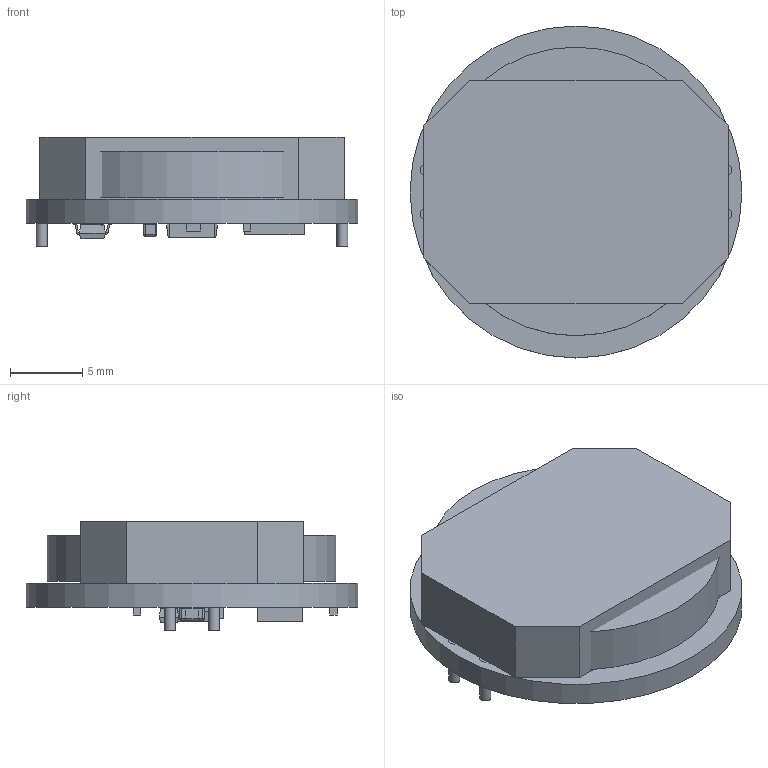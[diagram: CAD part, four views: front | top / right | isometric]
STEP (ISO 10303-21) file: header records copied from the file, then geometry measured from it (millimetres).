
FILE_DESCRIPTION(('Open CASCADE Model'),'2;1');
FILE_NAME('Open CASCADE Shape Model','2020-05-16T19:37:39',('Author'),( 'Open CASCADE'),'Open CASCADE STEP processor 6.5','Open CASCADE 6.5' ,'Unknown');
FILE_SCHEMA(('AUTOMOTIVE_DESIGN { 1 0 10303 214 1 1 1 1 }'));
Length unit declared in the file: millimetre
Products named in the file (34): PCB; Board; BT1; 1446006952; Cylinder; 1446007072; 1449174912; Extruded; D1; User_Library-SOD-323; 1438126896; ACCEL; 1449174656; C2; 1449174400; C3; CAPC-0603-T0.9-BN; SOLID; COMPOUND; C4; 1449175040; C5; uC; 1449174272; 1449174144; RGB_1; SK6812_Mini
Assembly tree (37 placements, depth 4):
  PCB
    Board
    BT1
      1446006952
        Cylinder
      1446007072  x4
        Cylinder
      1449174912
        Extruded
    D1
      User_Library-SOD-323
      1438126896
        Extruded
    ACCEL
      1449174656
        Extruded
    C2
      1449174400
        Extruded
    C3
      CAPC-0603-T0.9-BN
        SOLID
        COMPOUND
    C4
      1449175040
        Extruded
    C5
      1449175040
        Extruded
    uC
      1449174272
        Extruded
      1449174144
        Extruded
    RGB_1
      SK6812_Mini
Bounding box: 23 x 23 x 7.62 mm (x, y, z)
Volume: 3060.4 mm3; surface area: 2932.5 mm2
Topology: 16 solids, 23 shells, 607 faces, 1532 edges, 931 vertices
Faces by surface type: plane 247, cylinder 191, bspline 148, sphere 8, revolution 7, cone 6
Full cylindrical faces by diameter (mm): 0.762 x4, 20 x1, 23 x1
Entity records: 61093 total; most frequent: CARTESIAN_POINT 33800, DIRECTION 4015, ORIENTED_EDGE 2836, PCURVE 2836, DEFINITIONAL_REPRESENTATION 2836, LINE 1795, VECTOR 1795, B_SPLINE_CURVE_WITH_KNOTS 1699
